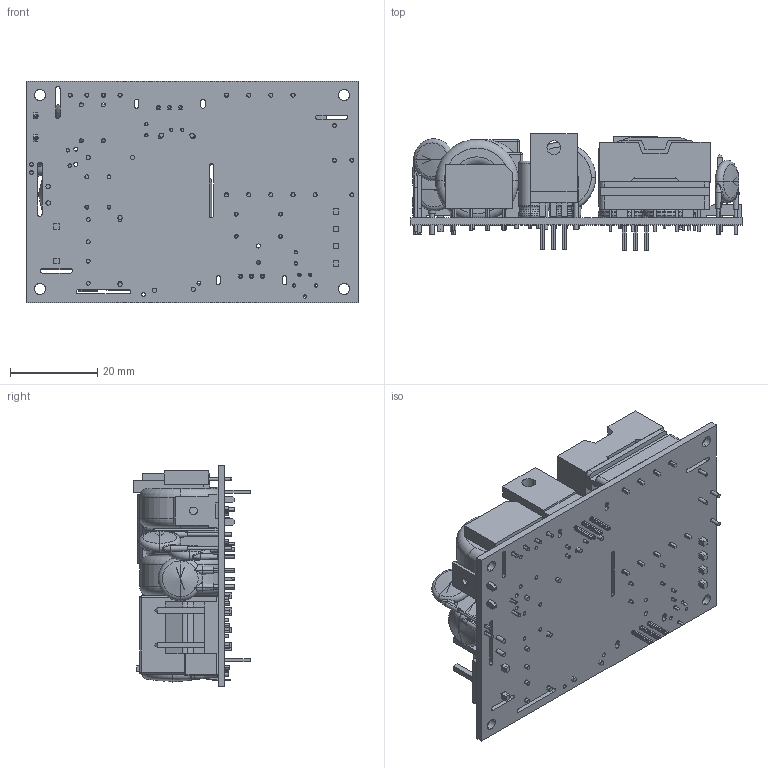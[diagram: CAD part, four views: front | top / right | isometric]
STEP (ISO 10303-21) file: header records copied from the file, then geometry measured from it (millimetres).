
FILE_DESCRIPTION (( 'STEP AP214' ), '1' );
FILE_NAME ('ECS25 12V-48V-OUTPUT.STEP', '2010-06-29T00:04:03', ( 'ALL' ), ( 'XP Power' ), 'SwSTEP 2.0', 'SolidWorks 2010', '' );
FILE_SCHEMA (( 'AUTOMOTIVE_DESIGN' ));
Length unit declared in the file: inch
Products named in the file (25): Capacitor Disc_0.300 D_0.350C; Connector QD_.250 Tab; 10008329C0; Capacitor Elec_06mm D_15mm; Inductor Toroid_8.0mm OD_3.5mm Width; Conn_MLX_KK156_Hdr_03P; Capacitor Disc_0.550 D_0.350" C; Capacitor Elec_10mm D_16mm; Capacitor Elec_16mm D_H2_32mm; Fuse Mini Rect_01; Conn_MLX_KK156_Hdr_04P; ECM-RECTIFIER; TO220_3P_FULL_01; TO220_3P_01; Pot_TOCOS_G4C_TA; 10008835A0 (Bobbin_EFD25_10P); Capacitor Elec_05mm D_13mm H; Inductor Toroid_19.0mm OD_10mm Width; Capacitor Film_13x06mm_10 LS_15mm; Mov_0.350 D_A1_0.300" C; Capacitor Film_18x07mm_15 LS_18mm H; ECS25 12V-48V-OUTPUT
Assembly tree (28 placements, depth 2):
  ECS25 12V-48V-OUTPUT
    Fuse Mini Rect_01  x2
    Inductor Toroid_19.0mm OD_10mm Width  x2
    Capacitor Film_18x07mm_15 LS_18mm H
    TO220_3P_01
    Mov_0.350 D_A1_0.300" C
    Capacitor Disc_0.300 D_0.350C
    Capacitor Disc_0.300 D_0.350C
    Pot_TOCOS_G4C_TA
    Capacitor Elec_05mm D_13mm H  x2
    Capacitor Disc_0.550 D_0.350" C
    Capacitor Elec_10mm D_16mm  x2
    TO220_3P_FULL_01
    Capacitor Film_13x06mm_10 LS_15mm
    Inductor Toroid_8.0mm OD_3.5mm Width
    10008329C0
    Capacitor Elec_06mm D_15mm
    Capacitor Elec_16mm D_H2_32mm
    Conn_MLX_KK156_Hdr_03P
    10008835A0 (Bobbin_EFD25_10P)
    Conn_MLX_KK156_Hdr_04P
    Capacitor Disc_0.300 D_0.350C
    Capacitor Disc_0.300 D_0.350C
    Connector QD_.250 Tab
    ECM-RECTIFIER
Bounding box: 76.2 x 26.67 x 50.8 mm (x, y, z)
Volume: 35734.7 mm3; surface area: 31277.3 mm2
Topology: 31 solids, 42 shells, 1277 faces, 3088 edges, 1942 vertices
Faces by surface type: plane 608, cylinder 429, torus 114, cone 82, sphere 24, bspline 20
Entity records: 48592 total; most frequent: CARTESIAN_POINT 12820, DIRECTION 6120, ORIENTED_EDGE 5696, EDGE_CURVE 2848, AXIS2_PLACEMENT_3D 2196, VERTEX_POINT 1834, LINE 1728, VECTOR 1728
